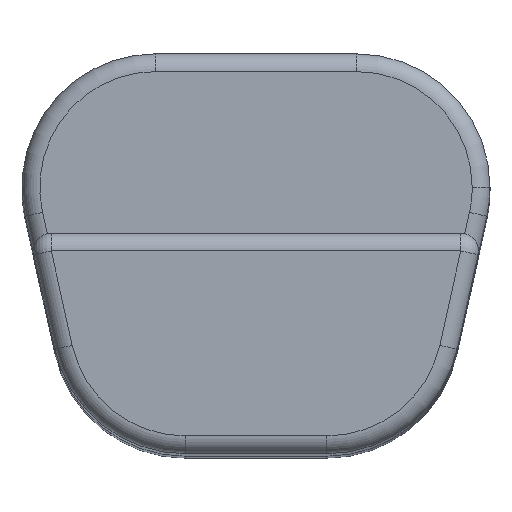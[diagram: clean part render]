
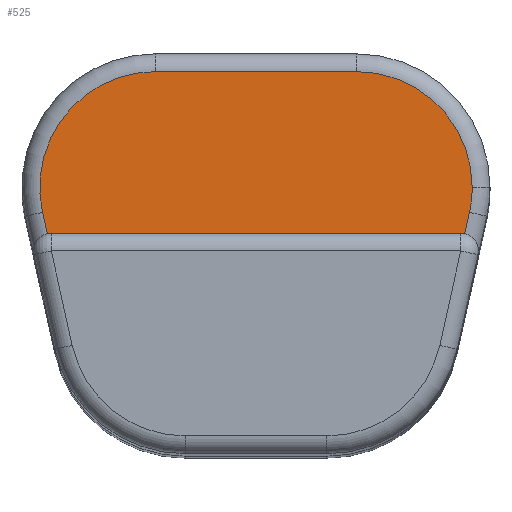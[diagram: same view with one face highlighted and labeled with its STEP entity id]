
A CAD part, top view. The second image highlights one B-rep face of the part: STEP entity #525.
In plain terms, the highlighted planar face has unit normal (0, 0, 1).
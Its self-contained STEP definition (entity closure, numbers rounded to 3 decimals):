
#16 = DIRECTION ( 'NONE',  ( -1., 0., 0. ) ) ;
#116 = AXIS2_PLACEMENT_3D ( 'NONE', #248, #2134, #1904 ) ;
#117 = EDGE_CURVE ( 'NONE', #1677, #554, #1518, .T. ) ;
#119 = CARTESIAN_POINT ( 'NONE',  ( 11.464, 1.197, 57.5 ) ) ;
#131 = CARTESIAN_POINT ( 'NONE',  ( -5.65, 5., 57.5 ) ) ;
#138 = CARTESIAN_POINT ( 'NONE',  ( 11.508, 2.397, 57.5 ) ) ;
#195 = DIRECTION ( 'NONE',  ( -1., 0., 0. ) ) ;
#206 = VERTEX_POINT ( 'NONE', #270 ) ;
#239 = ORIENTED_EDGE ( 'NONE', *, *, #802, .T. ) ;
#248 = CARTESIAN_POINT ( 'NONE',  ( 5.65, 5., 57.5 ) ) ;
#270 = CARTESIAN_POINT ( 'NONE',  ( -11.725, 2.373, 57.5 ) ) ;
#281 = AXIS2_PLACEMENT_3D ( 'NONE', #2500, #1727, #2579 ) ;
#287 = DIRECTION ( 'NONE',  ( 1., 0., 0. ) ) ;
#329 = CARTESIAN_POINT ( 'NONE',  ( -11.996, 3.59, 57.5 ) ) ;
#379 = CARTESIAN_POINT ( 'NONE',  ( -5.65, 11.5, 57.5 ) ) ;
#411 = CARTESIAN_POINT ( 'NONE',  ( -11.996, 3.59, 57.5 ) ) ;
#429 = VERTEX_POINT ( 'NONE', #1564 ) ;
#453 = VECTOR ( 'NONE', #1223, 1000. ) ;
#482 = AXIS2_PLACEMENT_3D ( 'NONE', #131, #941, #1115 ) ;
#525 = ADVANCED_FACE ( 'NONE', ( #1168 ), #1145, .T. ) ;
#554 = VERTEX_POINT ( 'NONE', #2637 ) ;
#615 = AXIS2_PLACEMENT_3D ( 'NONE', #1159, #1977, #971 ) ;
#630 = DIRECTION ( 'NONE',  ( 0., 0., 1. ) ) ;
#632 = AXIS2_PLACEMENT_3D ( 'NONE', #1880, #876, #287 ) ;
#658 = EDGE_CURVE ( 'NONE', #918, #206, #1868, .T. ) ;
#743 = ORIENTED_EDGE ( 'NONE', *, *, #1893, .T. ) ;
#784 = CIRCLE ( 'NONE', #615, 1. ) ;
#785 = EDGE_CURVE ( 'NONE', #2054, #2543, #1862, .T. ) ;
#802 = EDGE_CURVE ( 'NONE', #1325, #1677, #1689, .T. ) ;
#823 = CARTESIAN_POINT ( 'NONE',  ( -5.65, 5., 57.5 ) ) ;
#835 = VECTOR ( 'NONE', #1742, 1000. ) ;
#876 = DIRECTION ( 'NONE',  ( 0., 0., -1. ) ) ;
#882 = VECTOR ( 'NONE', #16, 1000. ) ;
#918 = VERTEX_POINT ( 'NONE', #329 ) ;
#926 = LINE ( 'NONE', #1582, #1096 ) ;
#930 = EDGE_CURVE ( 'NONE', #2543, #429, #2445, .T. ) ;
#941 = DIRECTION ( 'NONE',  ( 0., 0., 1. ) ) ;
#971 = DIRECTION ( 'NONE',  ( 1., 0., 0. ) ) ;
#1096 = VECTOR ( 'NONE', #2179, 1000. ) ;
#1115 = DIRECTION ( 'NONE',  ( 1., 0., 0. ) ) ;
#1145 = PLANE ( 'NONE',  #1946 ) ;
#1159 = CARTESIAN_POINT ( 'NONE',  ( -11.508, 1.397, 57.5 ) ) ;
#1168 = FACE_OUTER_BOUND ( 'NONE', #2088, .T. ) ;
#1202 = EDGE_CURVE ( 'NONE', #554, #2054, #1437, .T. ) ;
#1223 = DIRECTION ( 'NONE',  ( 0.217, -0.976, 0. ) ) ;
#1304 = EDGE_CURVE ( 'NONE', #1325, #2646, #926, .T. ) ;
#1325 = VERTEX_POINT ( 'NONE', #138 ) ;
#1437 = CIRCLE ( 'NONE', #281, 6.5 ) ;
#1447 = CARTESIAN_POINT ( 'NONE',  ( 5.65, 11.5, 57.5 ) ) ;
#1481 = ORIENTED_EDGE ( 'NONE', *, *, #1304, .F. ) ;
#1487 = ORIENTED_EDGE ( 'NONE', *, *, #658, .T. ) ;
#1508 = CIRCLE ( 'NONE', #482, 6.5 ) ;
#1518 = LINE ( 'NONE', #119, #835 ) ;
#1564 = CARTESIAN_POINT ( 'NONE',  ( -5.65, 11.5, 57.5 ) ) ;
#1582 = CARTESIAN_POINT ( 'NONE',  ( 12.755, 2.397, 57.5 ) ) ;
#1617 = EDGE_CURVE ( 'NONE', #206, #2646, #784, .T. ) ;
#1677 = VERTEX_POINT ( 'NONE', #2250 ) ;
#1689 = CIRCLE ( 'NONE', #632, 1. ) ;
#1703 = ORIENTED_EDGE ( 'NONE', *, *, #1617, .T. ) ;
#1716 = ORIENTED_EDGE ( 'NONE', *, *, #930, .T. ) ;
#1727 = DIRECTION ( 'NONE',  ( 0., 0., 1. ) ) ;
#1742 = DIRECTION ( 'NONE',  ( 0.217, 0.976, 0. ) ) ;
#1862 = CIRCLE ( 'NONE', #116, 6.5 ) ;
#1868 = LINE ( 'NONE', #411, #453 ) ;
#1880 = CARTESIAN_POINT ( 'NONE',  ( 11.508, 1.397, 57.5 ) ) ;
#1893 = EDGE_CURVE ( 'NONE', #429, #918, #1508, .T. ) ;
#1904 = DIRECTION ( 'NONE',  ( 1., 0., 0. ) ) ;
#1946 = AXIS2_PLACEMENT_3D ( 'NONE', #823, #630, #195 ) ;
#1954 = CARTESIAN_POINT ( 'NONE',  ( -11.508, 2.397, 57.5 ) ) ;
#1977 = DIRECTION ( 'NONE',  ( 0., 0., -1. ) ) ;
#2054 = VERTEX_POINT ( 'NONE', #2270 ) ;
#2088 = EDGE_LOOP ( 'NONE', ( #743, #1487, #1703, #1481, #239, #2235, #2463, #2493, #1716 ) ) ;
#2134 = DIRECTION ( 'NONE',  ( 0., 0., 1. ) ) ;
#2179 = DIRECTION ( 'NONE',  ( -1., 0., 0. ) ) ;
#2235 = ORIENTED_EDGE ( 'NONE', *, *, #117, .T. ) ;
#2250 = CARTESIAN_POINT ( 'NONE',  ( 11.725, 2.373, 57.5 ) ) ;
#2270 = CARTESIAN_POINT ( 'NONE',  ( 12.15, 5., 57.5 ) ) ;
#2445 = LINE ( 'NONE', #379, #882 ) ;
#2463 = ORIENTED_EDGE ( 'NONE', *, *, #1202, .T. ) ;
#2493 = ORIENTED_EDGE ( 'NONE', *, *, #785, .T. ) ;
#2500 = CARTESIAN_POINT ( 'NONE',  ( 5.65, 5., 57.5 ) ) ;
#2543 = VERTEX_POINT ( 'NONE', #1447 ) ;
#2579 = DIRECTION ( 'NONE',  ( 1., 0., 0. ) ) ;
#2637 = CARTESIAN_POINT ( 'NONE',  ( 11.996, 3.59, 57.5 ) ) ;
#2646 = VERTEX_POINT ( 'NONE', #1954 ) ;
